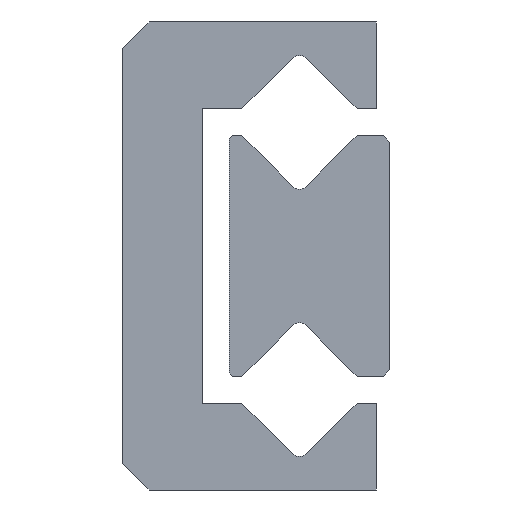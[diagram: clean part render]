
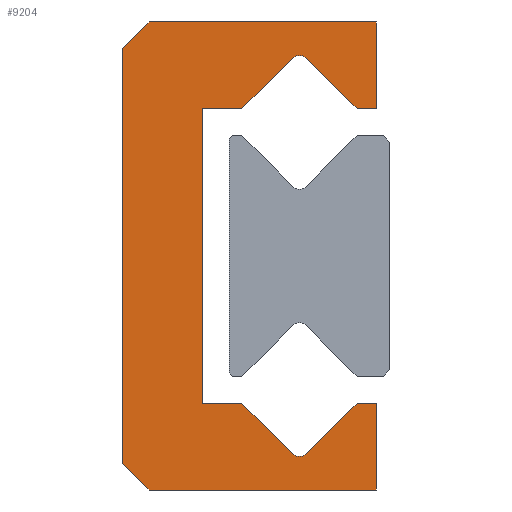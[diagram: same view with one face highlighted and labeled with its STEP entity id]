
A CAD part, left-side view. The second image highlights one B-rep face of the part: STEP entity #9204.
In plain terms, the highlighted planar face has unit normal (-1, 0, 0).
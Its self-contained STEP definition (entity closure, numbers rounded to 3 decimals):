
#296=CIRCLE('',#9991,0.15);
#300=CIRCLE('',#10001,0.15);
#1530=ORIENTED_EDGE('',*,*,#3858,.F.);
#1531=ORIENTED_EDGE('',*,*,#4296,.F.);
#1532=ORIENTED_EDGE('',*,*,#4291,.F.);
#1533=ORIENTED_EDGE('',*,*,#4288,.F.);
#1534=ORIENTED_EDGE('',*,*,#4285,.F.);
#1535=ORIENTED_EDGE('',*,*,#4282,.F.);
#1536=ORIENTED_EDGE('',*,*,#4279,.F.);
#1537=ORIENTED_EDGE('',*,*,#4276,.T.);
#1538=ORIENTED_EDGE('',*,*,#4273,.F.);
#1539=ORIENTED_EDGE('',*,*,#4270,.F.);
#1540=ORIENTED_EDGE('',*,*,#4267,.F.);
#1541=ORIENTED_EDGE('',*,*,#4262,.F.);
#1542=ORIENTED_EDGE('',*,*,#4259,.F.);
#1543=ORIENTED_EDGE('',*,*,#4256,.T.);
#1544=ORIENTED_EDGE('',*,*,#4253,.F.);
#1545=ORIENTED_EDGE('',*,*,#4250,.F.);
#1546=ORIENTED_EDGE('',*,*,#4247,.F.);
#1547=ORIENTED_EDGE('',*,*,#3862,.F.);
#3858=EDGE_CURVE('',#5272,#5273,#6234,.T.);
#3862=EDGE_CURVE('',#5273,#5276,#6238,.T.);
#4247=EDGE_CURVE('',#5276,#5660,#6375,.T.);
#4250=EDGE_CURVE('',#5660,#5662,#6378,.T.);
#4253=EDGE_CURVE('',#5662,#5664,#6381,.T.);
#4256=EDGE_CURVE('',#5666,#5664,#296,.T.);
#4259=EDGE_CURVE('',#5666,#5668,#6385,.T.);
#4262=EDGE_CURVE('',#5668,#5670,#6388,.T.);
#4267=EDGE_CURVE('',#5670,#5674,#6391,.T.);
#4270=EDGE_CURVE('',#5674,#5676,#6394,.T.);
#4273=EDGE_CURVE('',#5676,#5678,#6397,.T.);
#4276=EDGE_CURVE('',#5680,#5678,#300,.T.);
#4279=EDGE_CURVE('',#5680,#5682,#6401,.T.);
#4282=EDGE_CURVE('',#5682,#5684,#6404,.T.);
#4285=EDGE_CURVE('',#5684,#5686,#6407,.T.);
#4288=EDGE_CURVE('',#5686,#5688,#6410,.T.);
#4291=EDGE_CURVE('',#5688,#5690,#6413,.T.);
#4296=EDGE_CURVE('',#5690,#5272,#6416,.T.);
#5272=VERTEX_POINT('',#14013);
#5273=VERTEX_POINT('',#14014);
#5276=VERTEX_POINT('',#14022);
#5660=VERTEX_POINT('',#14792);
#5662=VERTEX_POINT('',#14798);
#5664=VERTEX_POINT('',#14804);
#5666=VERTEX_POINT('',#14810);
#5668=VERTEX_POINT('',#14816);
#5670=VERTEX_POINT('',#14822);
#5674=VERTEX_POINT('',#14832);
#5676=VERTEX_POINT('',#14838);
#5678=VERTEX_POINT('',#14844);
#5680=VERTEX_POINT('',#14850);
#5682=VERTEX_POINT('',#14856);
#5684=VERTEX_POINT('',#14862);
#5686=VERTEX_POINT('',#14868);
#5688=VERTEX_POINT('',#14874);
#5690=VERTEX_POINT('',#14880);
#6234=LINE('',#14012,#7058);
#6238=LINE('',#14021,#7062);
#6375=LINE('',#14791,#7199);
#6378=LINE('',#14797,#7202);
#6381=LINE('',#14803,#7205);
#6385=LINE('',#14815,#7209);
#6388=LINE('',#14821,#7212);
#6391=LINE('',#14831,#7215);
#6394=LINE('',#14837,#7218);
#6397=LINE('',#14843,#7221);
#6401=LINE('',#14855,#7225);
#6404=LINE('',#14861,#7228);
#6407=LINE('',#14867,#7231);
#6410=LINE('',#14873,#7234);
#6413=LINE('',#14879,#7237);
#6416=LINE('',#14889,#7240);
#7058=VECTOR('',#10943,1000.);
#7062=VECTOR('',#10949,1000.);
#7199=VECTOR('',#11584,1000.);
#7202=VECTOR('',#11589,1000.);
#7205=VECTOR('',#11594,1000.);
#7209=VECTOR('',#11606,1000.);
#7212=VECTOR('',#11611,1000.);
#7215=VECTOR('',#11620,1000.);
#7218=VECTOR('',#11625,1000.);
#7221=VECTOR('',#11630,1000.);
#7225=VECTOR('',#11642,1000.);
#7228=VECTOR('',#11647,1000.);
#7231=VECTOR('',#11652,1000.);
#7234=VECTOR('',#11657,1000.);
#7237=VECTOR('',#11662,1000.);
#7240=VECTOR('',#11671,1000.);
#7916=EDGE_LOOP('',(#1530,#1531,#1532,#1533,#1534,#1535,#1536,#1537,#1538,
#1539,#1540,#1541,#1542,#1543,#1544,#1545,#1546,#1547));
#8474=FACE_BOUND('',#7916,.T.);
#8987=PLANE('',#10012);
#9204=ADVANCED_FACE('',(#8474),#8987,.F.);
#9991=AXIS2_PLACEMENT_3D('',#14809,#11599,#11600);
#10001=AXIS2_PLACEMENT_3D('',#14849,#11635,#11636);
#10012=AXIS2_PLACEMENT_3D('',#14892,#11675,#11676);
#10943=DIRECTION('',(0.,-0.707,0.707));
#10949=DIRECTION('',(0.,-1.,0.));
#11584=DIRECTION('',(0.,0.,-1.));
#11589=DIRECTION('',(0.,1.,0.));
#11594=DIRECTION('',(0.,0.707,0.707));
#11599=DIRECTION('',(1.,0.,0.));
#11600=DIRECTION('',(0.,0.,-1.));
#11606=DIRECTION('',(0.,0.707,-0.707));
#11611=DIRECTION('',(0.,1.,0.));
#11620=DIRECTION('',(0.,0.,-1.));
#11625=DIRECTION('',(0.,-1.,0.));
#11630=DIRECTION('',(0.,-0.707,-0.707));
#11635=DIRECTION('',(1.,0.,0.));
#11636=DIRECTION('',(0.,0.,-1.));
#11642=DIRECTION('',(0.,-0.707,0.707));
#11647=DIRECTION('',(0.,-1.,0.));
#11652=DIRECTION('',(0.,0.,-1.));
#11657=DIRECTION('',(0.,1.,0.));
#11662=DIRECTION('',(0.,0.707,0.707));
#11671=DIRECTION('',(0.,0.,1.));
#11675=DIRECTION('',(1.,0.,0.));
#11676=DIRECTION('',(0.,0.,-1.));
#14012=CARTESIAN_POINT('',(-10.,3.8,3.1));
#14013=CARTESIAN_POINT('',(-10.,3.8,3.1));
#14014=CARTESIAN_POINT('',(-10.,3.4,3.5));
#14021=CARTESIAN_POINT('',(-10.,3.4,3.5));
#14022=CARTESIAN_POINT('',(-10.,0.,3.5));
#14791=CARTESIAN_POINT('',(-10.,0.,3.5));
#14792=CARTESIAN_POINT('',(-10.,0.,2.2));
#14797=CARTESIAN_POINT('',(-10.,0.,2.2));
#14798=CARTESIAN_POINT('',(-10.,0.289,2.2));
#14803=CARTESIAN_POINT('',(-10.,0.289,2.2));
#14804=CARTESIAN_POINT('',(-10.,1.044,2.955));
#14809=CARTESIAN_POINT('',(-10.,1.15,2.849));
#14810=CARTESIAN_POINT('',(-10.,1.256,2.955));
#14815=CARTESIAN_POINT('',(-10.,1.256,2.955));
#14816=CARTESIAN_POINT('',(-10.,2.011,2.2));
#14821=CARTESIAN_POINT('',(-10.,2.011,2.2));
#14822=CARTESIAN_POINT('',(-10.,2.6,2.2));
#14831=CARTESIAN_POINT('',(-10.,2.6,2.2));
#14832=CARTESIAN_POINT('',(-10.,2.6,-2.2));
#14837=CARTESIAN_POINT('',(-10.,2.6,-2.2));
#14838=CARTESIAN_POINT('',(-10.,2.011,-2.2));
#14843=CARTESIAN_POINT('',(-10.,2.011,-2.2));
#14844=CARTESIAN_POINT('',(-10.,1.256,-2.955));
#14849=CARTESIAN_POINT('',(-10.,1.15,-2.849));
#14850=CARTESIAN_POINT('',(-10.,1.044,-2.955));
#14855=CARTESIAN_POINT('',(-10.,1.044,-2.955));
#14856=CARTESIAN_POINT('',(-10.,0.289,-2.2));
#14861=CARTESIAN_POINT('',(-10.,0.289,-2.2));
#14862=CARTESIAN_POINT('',(-10.,0.,-2.2));
#14867=CARTESIAN_POINT('',(-10.,0.,-2.2));
#14868=CARTESIAN_POINT('',(-10.,0.,-3.5));
#14873=CARTESIAN_POINT('',(-10.,0.,-3.5));
#14874=CARTESIAN_POINT('',(-10.,3.4,-3.5));
#14879=CARTESIAN_POINT('',(-10.,3.4,-3.5));
#14880=CARTESIAN_POINT('',(-10.,3.8,-3.1));
#14889=CARTESIAN_POINT('',(-10.,3.8,-3.1));
#14892=CARTESIAN_POINT('',(-10.,1.15,2.849));
